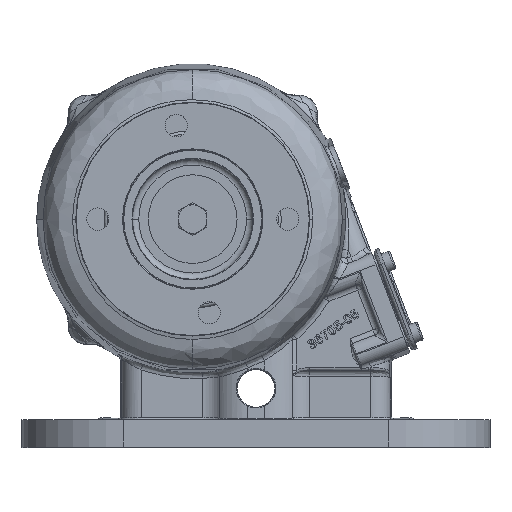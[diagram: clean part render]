
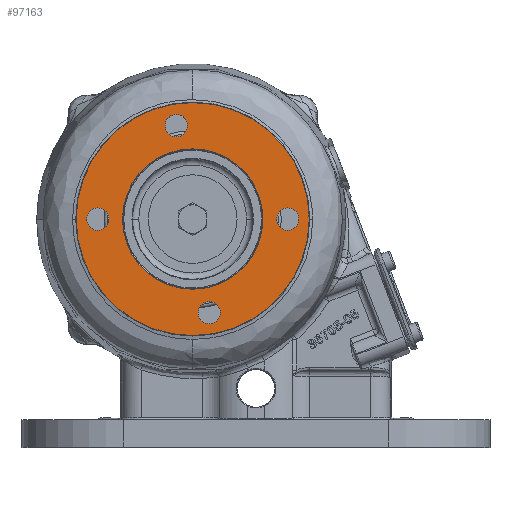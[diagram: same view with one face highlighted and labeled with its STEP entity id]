
A CAD part, top view. The second image highlights one B-rep face of the part: STEP entity #97163.
In plain terms, the highlighted planar face has unit normal (0, 0, 1) as drawn and (0, -1, 0) by its records, which use the part's own axes.
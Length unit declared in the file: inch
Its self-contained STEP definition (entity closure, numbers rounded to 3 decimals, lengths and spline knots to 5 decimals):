
#21 = EDGE_LOOP ( 'NONE', ( #56624, #16855 ) ) ;
#5880 = EDGE_CURVE ( 'NONE', #209289, #134937, #38887, .T. ) ;
#8204 = EDGE_CURVE ( 'NONE', #57375, #220488, #187836, .T. ) ;
#11121 = DIRECTION ( 'NONE',  ( -1., 0., 0. ) ) ;
#11582 = CARTESIAN_POINT ( 'NONE',  ( -0.22, 0.05, -1.875 ) ) ;
#13501 = EDGE_CURVE ( 'NONE', #32047, #195537, #145214, .T. ) ;
#16855 = ORIENTED_EDGE ( 'NONE', *, *, #13501, .T. ) ;
#19045 = EDGE_LOOP ( 'NONE', ( #67615, #114558 ) ) ;
#20532 = CIRCLE ( 'NONE', #149924, 0.22 ) ;
#23216 = VERTEX_POINT ( 'NONE', #220826 ) ;
#24168 = ORIENTED_EDGE ( 'NONE', *, *, #152481, .T. ) ;
#24594 = FACE_OUTER_BOUND ( 'NONE', #21, .T. ) ;
#25251 = AXIS2_PLACEMENT_3D ( 'NONE', #66682, #47051, #11121 ) ;
#32047 = VERTEX_POINT ( 'NONE', #113577 ) ;
#35419 = FACE_BOUND ( 'NONE', #80012, .T. ) ;
#36306 = DIRECTION ( 'NONE',  ( 0., 1., 0. ) ) ;
#38887 = CIRCLE ( 'NONE', #86948, 0.22 ) ;
#40845 = FACE_BOUND ( 'NONE', #43316, .T. ) ;
#43316 = EDGE_LOOP ( 'NONE', ( #80738, #24168 ) ) ;
#43577 = CARTESIAN_POINT ( 'NONE',  ( -1.84651, 0.05, -0.32559 ) ) ;
#43789 = AXIS2_PLACEMENT_3D ( 'NONE', #129391, #199979, #218519 ) ;
#47051 = DIRECTION ( 'NONE',  ( 0., 1., 0. ) ) ;
#47585 = CIRCLE ( 'NONE', #43789, 0.22 ) ;
#50168 = EDGE_LOOP ( 'NONE', ( #167926, #187429 ) ) ;
#51433 = VERTEX_POINT ( 'NONE', #145783 ) ;
#54059 = DIRECTION ( 'NONE',  ( 0., -1., 0. ) ) ;
#54067 = DIRECTION ( 'NONE',  ( -1., 0., 0. ) ) ;
#56475 = CARTESIAN_POINT ( 'NONE',  ( 1.3855, 0.05, 0. ) ) ;
#56624 = ORIENTED_EDGE ( 'NONE', *, *, #110148, .T. ) ;
#57076 = CARTESIAN_POINT ( 'NONE',  ( 2.31, 0.05, 0. ) ) ;
#57375 = VERTEX_POINT ( 'NONE', #94105 ) ;
#59357 = PLANE ( 'NONE',  #227613 ) ;
#59804 = CARTESIAN_POINT ( 'NONE',  ( -2.06651, 0.05, -0.32559 ) ) ;
#66682 = CARTESIAN_POINT ( 'NONE',  ( -1.84651, 0.05, -0.32559 ) ) ;
#67477 = CARTESIAN_POINT ( 'NONE',  ( 0., 0.05, -1.875 ) ) ;
#67615 = ORIENTED_EDGE ( 'NONE', *, *, #96910, .T. ) ;
#70286 = CARTESIAN_POINT ( 'NONE',  ( 0., 0.05, 0. ) ) ;
#75572 = DIRECTION ( 'NONE',  ( -1., 0., 0. ) ) ;
#75958 = CARTESIAN_POINT ( 'NONE',  ( 0., 0.05, 2.3 ) ) ;
#80012 = EDGE_LOOP ( 'NONE', ( #204345, #212548 ) ) ;
#80738 = ORIENTED_EDGE ( 'NONE', *, *, #8204, .T. ) ;
#84282 = EDGE_CURVE ( 'NONE', #23216, #155298, #205850, .T. ) ;
#86882 = DIRECTION ( 'NONE',  ( 0., 1., 0. ) ) ;
#86948 = AXIS2_PLACEMENT_3D ( 'NONE', #43577, #224073, #133810 ) ;
#87503 = FACE_BOUND ( 'NONE', #147228, .T. ) ;
#87849 = DIRECTION ( 'NONE',  ( 0., 1., 0. ) ) ;
#88783 = DIRECTION ( 'NONE',  ( 0., 1., 0. ) ) ;
#91794 = FACE_BOUND ( 'NONE', #50168, .T. ) ;
#92434 = CARTESIAN_POINT ( 'NONE',  ( 0., 0.05, -1.875 ) ) ;
#94105 = CARTESIAN_POINT ( 'NONE',  ( -0.22, 0.05, 1.875 ) ) ;
#95222 = DIRECTION ( 'NONE',  ( 0., 1., 0. ) ) ;
#96910 = EDGE_CURVE ( 'NONE', #223209, #210067, #20532, .T. ) ;
#97163 = ADVANCED_FACE ( 'NONE', ( #24594, #87503, #211386, #91794, #40845, #35419 ), #59357, .F. ) ;
#102033 = CARTESIAN_POINT ( 'NONE',  ( 0., 0.05, 0. ) ) ;
#104223 = CIRCLE ( 'NONE', #130005, 0.22 ) ;
#104631 = CARTESIAN_POINT ( 'NONE',  ( 0., 0.05, 1.875 ) ) ;
#106268 = EDGE_CURVE ( 'NONE', #155298, #23216, #176850, .T. ) ;
#110148 = EDGE_CURVE ( 'NONE', #195537, #32047, #143957, .T. ) ;
#113577 = CARTESIAN_POINT ( 'NONE',  ( 0., 0.05, -2.3 ) ) ;
#114558 = ORIENTED_EDGE ( 'NONE', *, *, #140489, .T. ) ;
#115419 = CARTESIAN_POINT ( 'NONE',  ( 0.22, 0.05, 1.875 ) ) ;
#128808 = ORIENTED_EDGE ( 'NONE', *, *, #84282, .T. ) ;
#129391 = CARTESIAN_POINT ( 'NONE',  ( 1.84651, 0.05, 0.32559 ) ) ;
#130005 = AXIS2_PLACEMENT_3D ( 'NONE', #104631, #36306, #213408 ) ;
#133810 = DIRECTION ( 'NONE',  ( -1., 0., 0. ) ) ;
#134937 = VERTEX_POINT ( 'NONE', #159577 ) ;
#136098 = AXIS2_PLACEMENT_3D ( 'NONE', #190916, #226789, #194328 ) ;
#136125 = CIRCLE ( 'NONE', #25251, 0.22 ) ;
#140143 = AXIS2_PLACEMENT_3D ( 'NONE', #102033, #152968, #191157 ) ;
#140489 = EDGE_CURVE ( 'NONE', #210067, #223209, #47585, .T. ) ;
#141270 = DIRECTION ( 'NONE',  ( -1., 0., 0. ) ) ;
#142026 = CARTESIAN_POINT ( 'NONE',  ( 2.06651, 0.05, 0.32559 ) ) ;
#142221 = DIRECTION ( 'NONE',  ( -1., 0., 0. ) ) ;
#142733 = CARTESIAN_POINT ( 'NONE',  ( 1.62651, 0.05, 0.32559 ) ) ;
#143634 = AXIS2_PLACEMENT_3D ( 'NONE', #176750, #88783, #54067 ) ;
#143957 = CIRCLE ( 'NONE', #140143, 2.3 ) ;
#144676 = EDGE_CURVE ( 'NONE', #51433, #174914, #151327, .T. ) ;
#145214 = CIRCLE ( 'NONE', #174774, 2.3 ) ;
#145783 = CARTESIAN_POINT ( 'NONE',  ( 0.22, 0.05, -1.875 ) ) ;
#147228 = EDGE_LOOP ( 'NONE', ( #223881, #128808 ) ) ;
#149924 = AXIS2_PLACEMENT_3D ( 'NONE', #161814, #158384, #229028 ) ;
#151327 = CIRCLE ( 'NONE', #169847, 0.22 ) ;
#152481 = EDGE_CURVE ( 'NONE', #220488, #57375, #104223, .T. ) ;
#152968 = DIRECTION ( 'NONE',  ( 0., -1., 0. ) ) ;
#154825 = DIRECTION ( 'NONE',  ( -1., 0., 0. ) ) ;
#155298 = VERTEX_POINT ( 'NONE', #56475 ) ;
#158384 = DIRECTION ( 'NONE',  ( 0., 1., 0. ) ) ;
#159577 = CARTESIAN_POINT ( 'NONE',  ( -1.62651, 0.05, -0.32559 ) ) ;
#161398 = AXIS2_PLACEMENT_3D ( 'NONE', #228125, #86882, #141270 ) ;
#161814 = CARTESIAN_POINT ( 'NONE',  ( 1.84651, 0.05, 0.32559 ) ) ;
#167926 = ORIENTED_EDGE ( 'NONE', *, *, #5880, .T. ) ;
#169847 = AXIS2_PLACEMENT_3D ( 'NONE', #67477, #222661, #191345 ) ;
#174774 = AXIS2_PLACEMENT_3D ( 'NONE', #70286, #54059, #154825 ) ;
#174914 = VERTEX_POINT ( 'NONE', #11582 ) ;
#176750 = CARTESIAN_POINT ( 'NONE',  ( 0., 0.05, 0. ) ) ;
#176850 = CIRCLE ( 'NONE', #143634, 1.3855 ) ;
#184439 = EDGE_CURVE ( 'NONE', #134937, #209289, #136125, .T. ) ;
#187429 = ORIENTED_EDGE ( 'NONE', *, *, #184439, .T. ) ;
#187836 = CIRCLE ( 'NONE', #136098, 0.22 ) ;
#190403 = EDGE_CURVE ( 'NONE', #174914, #51433, #228670, .T. ) ;
#190916 = CARTESIAN_POINT ( 'NONE',  ( 0., 0.05, 1.875 ) ) ;
#191157 = DIRECTION ( 'NONE',  ( -1., 0., 0. ) ) ;
#191345 = DIRECTION ( 'NONE',  ( -1., 0., 0. ) ) ;
#194328 = DIRECTION ( 'NONE',  ( -1., 0., 0. ) ) ;
#195537 = VERTEX_POINT ( 'NONE', #75958 ) ;
#199065 = AXIS2_PLACEMENT_3D ( 'NONE', #92434, #87849, #142221 ) ;
#199979 = DIRECTION ( 'NONE',  ( 0., 1., 0. ) ) ;
#204345 = ORIENTED_EDGE ( 'NONE', *, *, #190403, .T. ) ;
#205850 = CIRCLE ( 'NONE', #161398, 1.3855 ) ;
#209289 = VERTEX_POINT ( 'NONE', #59804 ) ;
#210067 = VERTEX_POINT ( 'NONE', #142026 ) ;
#211386 = FACE_BOUND ( 'NONE', #19045, .T. ) ;
#212548 = ORIENTED_EDGE ( 'NONE', *, *, #144676, .T. ) ;
#213408 = DIRECTION ( 'NONE',  ( -1., 0., 0. ) ) ;
#218519 = DIRECTION ( 'NONE',  ( -1., 0., 0. ) ) ;
#220488 = VERTEX_POINT ( 'NONE', #115419 ) ;
#220826 = CARTESIAN_POINT ( 'NONE',  ( -1.3855, 0.05, 0. ) ) ;
#222661 = DIRECTION ( 'NONE',  ( 0., 1., 0. ) ) ;
#223209 = VERTEX_POINT ( 'NONE', #142733 ) ;
#223881 = ORIENTED_EDGE ( 'NONE', *, *, #106268, .T. ) ;
#224073 = DIRECTION ( 'NONE',  ( 0., 1., 0. ) ) ;
#226789 = DIRECTION ( 'NONE',  ( 0., 1., 0. ) ) ;
#227613 = AXIS2_PLACEMENT_3D ( 'NONE', #57076, #95222, #75572 ) ;
#228125 = CARTESIAN_POINT ( 'NONE',  ( 0., 0.05, 0. ) ) ;
#228670 = CIRCLE ( 'NONE', #199065, 0.22 ) ;
#229028 = DIRECTION ( 'NONE',  ( -1., 0., 0. ) ) ;
